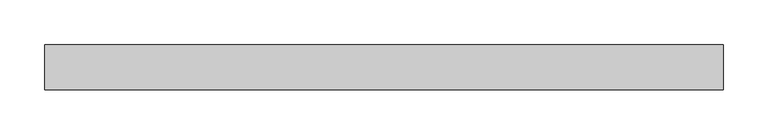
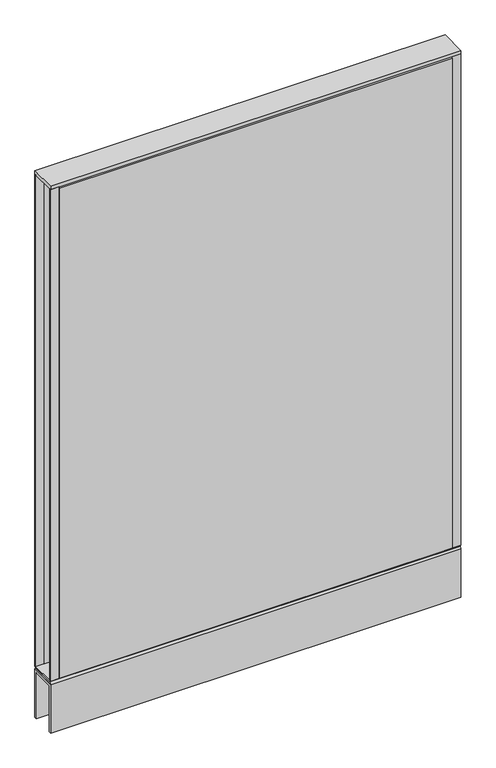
"""IFC4 building model written with IfcOpenShell, lengths in millimetres: furniture geometry, Steelcase - Kick Solutions - Panel - Monolithic - Tackable Acoustical : 42H x 30W."""

from ifc_helpers import new_model, si_unit, frame, origin, place, context, project, spatial, polyline, outline, extrude, source, transform, mapped, element, save


def furniture_7b76caca(model_context):
    return source(origin(), model_context, "Body", "SweptSolid", [
        extrude(outline(polyline([(0.0, 101.7169049), (-3.1750015, 101.7169049), (-3.1750015, 1066.9169018), (0.0, 1063.8357466), (0.0, 101.7169049)])), frame((15.8749996, 0.0, 0.0), z_axis=(1.0, 0.0, 0.0), x_axis=(0.0, 1.0, 0.0)), (0.0, 0.0, 1.0), 730.2500008),
        extrude(outline(polyline([(-50.8000015, 101.7169049), (-50.8000015, 1063.8357466), (-47.625, 1066.9169018), (-47.625, 101.7169049), (-50.8000015, 101.7169049)])), frame((15.8749996, 0.0, 0.0), z_axis=(1.0, 0.0, 0.0), x_axis=(0.0, 1.0, 0.0)), (0.0, 0.0, 1.0), 730.2500008),
        extrude(outline(polyline([(762.0, -3.1750015), (746.1250004, -3.1750015), (746.1250004, 0.0), (762.0, 0.0), (762.0, -3.1750015)])), frame((0.0, 0.0, 101.7169049), z_axis=(0.0, 0.0, 1.0), x_axis=(1.0, 0.0, 0.0)), (0.0, 0.0, 1.0), 965.199997),
        extrude(outline(polyline([(15.8749996, -50.8000015), (0.0, -50.8000015), (0.0, -47.625), (15.8749996, -47.625), (15.8749996, -50.8000015)])), frame((0.0, 0.0, 101.7169049), z_axis=(0.0, 0.0, 1.0), x_axis=(1.0, 0.0, 0.0)), (0.0, 0.0, 1.0), 965.199997),
        extrude(outline(polyline([(-50.7995075, 101.7169049), (-0.000494, 101.7169049), (-3.0583512, 98.5421458), (-47.7416503, 98.5421458), (-50.7995075, 101.7169049)])), frame((0.0, 0.0, 0.0), z_axis=(1.0, 0.0, 0.0), x_axis=(0.0, 1.0, 0.0)), (0.0, 0.0, 1.0), 762.0),
        extrude(outline(polyline([(762.0, 0.0), (762.0, -50.8000015), (0.0, -50.8000015), (0.0, 0.0), (762.0, 0.0)])), frame((0.0, 0.0, 1066.9169018), z_axis=(0.0, 0.0, 1.0), x_axis=(1.0, 0.0, 0.0)), (0.0, 0.0, 1.0), 6.35),
        extrude(outline(polyline([(15.8749996, -3.1750015), (0.0, -3.1750015), (0.0, 0.0), (15.8749996, 0.0), (15.8749996, -3.1750015)])), frame((0.0, 0.0, 101.7169049), z_axis=(0.0, 0.0, 1.0), x_axis=(1.0, 0.0, 0.0)), (0.0, 0.0, 1.0), 965.199997),
        extrude(outline(polyline([(762.0, -50.8000015), (746.1250004, -50.8000015), (746.1250004, -47.625), (762.0, -47.625), (762.0, -50.8000015)])), frame((0.0, 0.0, 101.7169049), z_axis=(0.0, 0.0, 1.0), x_axis=(1.0, 0.0, 0.0)), (0.0, 0.0, 1.0), 965.199997),
        extrude(outline(polyline([(-50.8000015, 95.3668927), (-47.6247484, 98.5421458), (-3.1752531, 98.5421458), (0.0, 95.3668927), (-50.8000015, 95.3668927)])), frame((0.0, 0.0, 0.0), z_axis=(1.0, 0.0, 0.0), x_axis=(0.0, 1.0, 0.0)), (0.0, 0.0, 1.0), 762.0),
        extrude(outline(polyline([(0.0, 0.0), (-5.08, 0.0), (-5.08, 90.2869018), (-45.7200015, 90.2869018), (-45.7200015, 0.0), (-50.8000015, 0.0), (-50.8000015, 95.3669018), (0.0, 95.3669018), (0.0, 0.0)])), frame((0.0, 0.0, 0.0), z_axis=(1.0, 0.0, 0.0), x_axis=(0.0, 1.0, 0.0)), (0.0, 0.0, 1.0), 762.0),
    ])


if __name__ == "__main__":
    model = new_model("IFC4")
    model_context = context("Model", 3, world=origin())
    ifc_project = project(units=[si_unit("LENGTHUNIT", "METRE", prefix="MILLI")], contexts=[model_context])
    site = spatial("IfcSite", under=ifc_project)
    building = spatial("IfcBuilding", under=site)
    placement = place(None, origin())
    furniture_shape = furniture_7b76caca(model_context)
    element("IfcFurniture", 1, ObjectType="Steelcase - Kick Solutions - Panel - Monolithic - Tackable Acoustical : 42H x 30W", at=placement, inside=building, context=model_context, shape_type="MappedRepresentation", body=[
        mapped(furniture_shape, transform((0.0, 0.0, 0.0), x_axis=(1.0, 0.0, 0.0), y_axis=(0.0, 1.0, 0.0), z_axis=(0.0, 0.0, 1.0))),
    ])
    save(model, "model.ifc")
